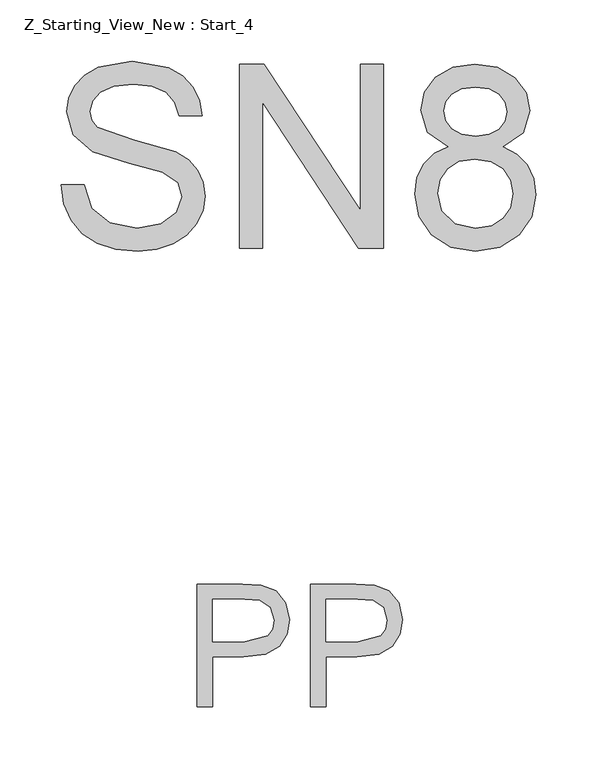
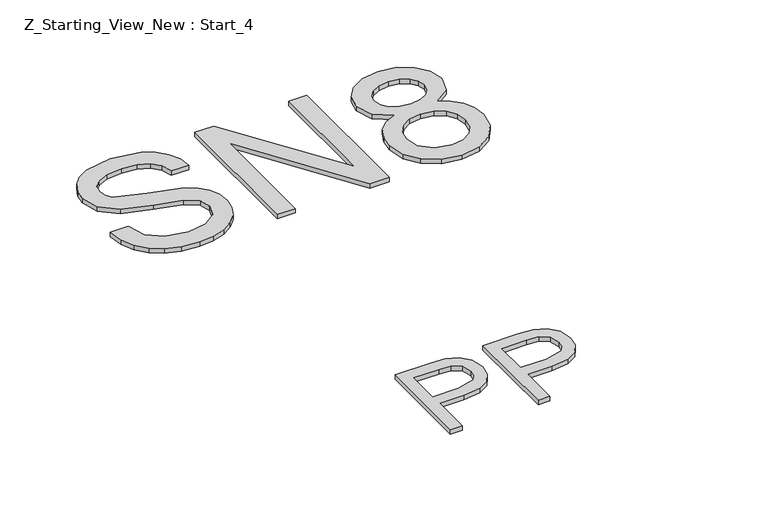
"""IFC4 building model written with IfcOpenShell, lengths in millimetres: pipe fitting geometry, Z_Starting_View_New : Start_4."""

from ifc_helpers import new_model, si_unit, origin, origin_with_axes, place, context, project, spatial, polyline, outline, extrude, source, transform, mapped, element, save


def z_starting_view_new_start_4_2cd9201c(model_context):
    return source(origin(), model_context, "Body", "SweptSolid", [
        extrude(outline(polyline([(22541.0675261, 7497.5835152), (22559.9030842, 7497.5835152), (22565.9731371, 7478.7295629), (22580.7987815, 7466.8101863), (22603.386736, 7462.2668436), (22623.0684228, 7465.7065403), (22635.7787457, 7475.1611076), (22639.9542064, 7487.7978541), (22636.8272094, 7499.5516839), (22624.024916, 7508.1049402), (22596.5993132, 7515.2970333), (22567.0767831, 7524.5860536), (22551.0555222, 7538.6023576), (22545.7764156, 7557.3275512), (22547.4088919, 7568.3594125), (22552.306321, 7578.6463128), (22560.3399441, 7587.3651161), (22571.3810025, 7593.6926864), (22599.3032459, 7598.8246403), (22629.1016875, 7593.4535631), (22640.5244235, 7586.8224902), (22648.9673152, 7577.6714255), (22654.3108012, 7566.5705863), (22656.4353197, 7554.0901896), (22637.5997616, 7554.0901896), (22634.1416708, 7565.3289846), (22626.9311837, 7573.4407826), (22615.6647976, 7578.3520072), (22600.0390099, 7579.9890821), (22584.0453401, 7578.3704013), (22573.0732596, 7573.514359), (22566.7272952, 7566.3682512), (22564.6119737, 7557.8793742), (22566.1110929, 7550.6412959), (22570.6084503, 7544.8195634), (22601.3633851, 7534.2981383), (22634.6934938, 7524.843571), (22645.4310496, 7518.010163), (22652.9220467, 7509.5764682), (22657.3228351, 7499.6344573), (22658.7897645, 7488.2761007), (22657.1021059, 7476.6648252), (22652.0391299, 7465.7433285), (22643.8077703, 7456.3439435), (22632.6149606, 7449.2990033), (22619.1550781, 7444.898215), (22604.1225, 7443.4312855), (22585.6686194, 7445.0131781), (22570.4796916, 7449.7588558), (22558.3809725, 7457.6867128), (22549.1977181, 7468.8151432), (22543.3024092, 7482.3715947), (22541.0675261, 7497.5835152)])), origin_with_axes(), (0.0, 0.0, 1.0), 5.0),
        extrude(outline(polyline([(22687.0431017, 7445.7857303), (22687.0431017, 7596.4701955), (22707.2030351, 7596.4701955), (22785.929782, 7477.0924881), (22785.929782, 7596.4701955), (22804.7653402, 7596.4701955), (22804.7653402, 7445.7857303), (22784.6054069, 7445.7857303), (22705.8786599, 7565.2002259), (22705.8786599, 7445.7857303), (22687.0431017, 7445.7857303)])), origin_with_axes(), (0.0, 0.0, 1.0), 5.0),
        extrude(outline(polyline([(22858.1082295, 7528.7799084), (22840.9465344, 7540.4785558), (22835.3731222, 7558.6887146), (22838.4081487, 7573.4131914), (22847.513228, 7585.5808884), (22861.6674878, 7593.7478687), (22879.8500554, 7596.4701955), (22898.1429876, 7593.6834894), (22912.4811884, 7585.323371), (22921.7518147, 7572.962536), (22924.8420234, 7558.1736798), (22919.3421876, 7540.4233735), (22902.6587391, 7528.7799084), (22914.2516205, 7522.8064245), (22922.6899138, 7514.0094463), (22927.8356632, 7502.812038), (22929.550913, 7489.6372641), (22926.1480045, 7471.6294404), (22915.9392791, 7456.7486137), (22900.1755356, 7446.7606176), (22880.1075728, 7443.4312855), (22860.03961, 7446.7744131), (22844.2758665, 7456.803796), (22834.0671411, 7471.827177), (22830.6642327, 7490.1522989), (22832.4484603, 7503.8375091), (22837.8011434, 7515.0946982), (22846.4463703, 7523.5375899), (22858.1082295, 7528.7799084)]), holes=[polyline([(22854.2086804, 7558.1368916), (22855.8779449, 7549.914729), (22860.8857386, 7543.3480354), (22869.0849085, 7539.043816), (22880.328302, 7537.6090763), (22891.3095796, 7539.034619), (22899.3845894, 7543.3112472), (22904.3509963, 7549.6572116), (22906.0064653, 7557.290763), (22904.295814, 7565.2140215), (22899.1638602, 7571.7669195), (22890.9784858, 7576.1677079), (22880.1075728, 7577.6346373), (22869.167682, 7576.1998976), (22860.9961032, 7571.8956782), (22855.9055361, 7565.586502), (22854.2086804, 7558.1368916)]), polyline([(22849.4997908, 7490.8144865), (22852.6451819, 7476.6326356), (22863.7736122, 7466.01924), (22880.2547256, 7462.2668436), (22893.0754131, 7464.2396108), (22902.6955273, 7470.1579124), (22908.7103979, 7479.1204376), (22910.7153548, 7490.2258753), (22908.6460186, 7501.5198525), (22902.4380099, 7510.6801142), (22892.5971665, 7516.7501671), (22879.6293262, 7518.7735181), (22866.9879812, 7516.7777583), (22857.464436, 7510.7904788), (22851.4909521, 7501.8049611), (22849.4997908, 7490.8144865)])]), origin_with_axes(), (0.0, 0.0, 1.0), 5.0),
        extrude(outline(polyline([(22652.5112451, 7070.7857303), (22652.5112451, 7171.2420404), (22689.740903, 7171.2420404), (22704.7504884, 7170.2855472), (22716.9519079, 7165.5889204), (22724.8613708, 7155.8768358), (22727.8534777, 7142.1793628), (22725.8331925, 7130.3396939), (22719.7723366, 7120.4743251), (22708.4385054, 7113.815661), (22690.5992944, 7111.5961063), (22665.0682839, 7111.5961063), (22665.0682839, 7070.7857303), (22652.5112451, 7070.7857303)]), holes=[polyline([(22665.0682839, 7124.153145), (22691.3350584, 7124.153145), (22709.82726, 7128.7639327), (22713.9291442, 7134.3128195), (22715.296439, 7141.7379044), (22712.0713401, 7152.1367021), (22703.5977915, 7157.8266103), (22691.0407528, 7158.6850016), (22665.0682839, 7158.6850016), (22665.0682839, 7124.153145)])]), origin_with_axes(), (0.0, 0.0, 1.0), 5.0),
        extrude(outline(polyline([(22745.119406, 7070.7857303), (22745.119406, 7171.2420404), (22782.349064, 7171.2420404), (22797.3586494, 7170.2855472), (22809.5600689, 7165.5889204), (22817.4695318, 7155.8768358), (22820.4616387, 7142.1793628), (22818.4413534, 7130.3396939), (22812.3804975, 7120.4743251), (22801.0466664, 7113.815661), (22783.2074553, 7111.5961063), (22757.6764448, 7111.5961063), (22757.6764448, 7070.7857303), (22745.119406, 7070.7857303)]), holes=[polyline([(22757.6764448, 7124.153145), (22783.9432193, 7124.153145), (22802.4354209, 7128.7639327), (22806.5373051, 7134.3128195), (22807.9045999, 7141.7379044), (22804.6795011, 7152.1367021), (22796.2059524, 7157.8266103), (22783.6489137, 7158.6850016), (22757.6764448, 7158.6850016), (22757.6764448, 7124.153145)])]), origin_with_axes(), (0.0, 0.0, 1.0), 5.0),
        extrude(outline(polyline([(22745.119406, 7070.7857303), (22745.119406, 7171.2420404), (22782.349064, 7171.2420404), (22797.3586494, 7170.2855472), (22809.5600689, 7165.5889204), (22817.4695318, 7155.8768358), (22820.4616387, 7142.1793628), (22818.4413534, 7130.3396939), (22812.3804975, 7120.4743251), (22801.0466664, 7113.815661), (22783.2074553, 7111.5961063), (22757.6764448, 7111.5961063), (22757.6764448, 7070.7857303), (22745.119406, 7070.7857303)]), holes=[polyline([(22757.6764448, 7124.153145), (22783.9432193, 7124.153145), (22802.4354209, 7128.7639327), (22806.5373051, 7134.3128195), (22807.9045999, 7141.7379044), (22804.6795011, 7152.1367021), (22796.2059524, 7157.8266103), (22783.6489137, 7158.6850016), (22757.6764448, 7158.6850016), (22757.6764448, 7124.153145)])]), origin_with_axes(), (0.0, 0.0, 1.0), 5.0),
        extrude(outline(polyline([(22652.5112451, 7070.7857303), (22652.5112451, 7171.2420404), (22689.740903, 7171.2420404), (22704.7504884, 7170.2855472), (22716.9519079, 7165.5889204), (22724.8613708, 7155.8768358), (22727.8534777, 7142.1793628), (22725.8331925, 7130.3396939), (22719.7723366, 7120.4743251), (22708.4385054, 7113.815661), (22690.5992944, 7111.5961063), (22665.0682839, 7111.5961063), (22665.0682839, 7070.7857303), (22652.5112451, 7070.7857303)]), holes=[polyline([(22665.0682839, 7124.153145), (22691.3350584, 7124.153145), (22709.82726, 7128.7639327), (22713.9291442, 7134.3128195), (22715.296439, 7141.7379044), (22712.0713401, 7152.1367021), (22703.5977915, 7157.8266103), (22691.0407528, 7158.6850016), (22665.0682839, 7158.6850016), (22665.0682839, 7124.153145)])]), origin_with_axes(), (0.0, 0.0, 1.0), 5.0),
    ])


if __name__ == "__main__":
    model = new_model("IFC4")
    model_context = context("Model", 3, world=origin())
    ifc_project = project(units=[si_unit("LENGTHUNIT", "METRE", prefix="MILLI")], contexts=[model_context])
    site = spatial("IfcSite", under=ifc_project)
    building = spatial("IfcBuilding", under=site)
    placement = place(None, origin())
    z_starting_view_new_start_4_shape = z_starting_view_new_start_4_2cd9201c(model_context)
    element("IfcPipeFitting", 1, ObjectType="Z_Starting_View_New : Start_4", at=placement, inside=building, context=model_context, shape_type="MappedRepresentation", body=[
        mapped(z_starting_view_new_start_4_shape, transform((0.0, 0.0, 0.0), x_axis=(1.0, 0.0, 0.0), y_axis=(0.0, 1.0, 0.0), z_axis=(0.0, 0.0, 1.0))),
    ])
    save(model, "model.ifc")
